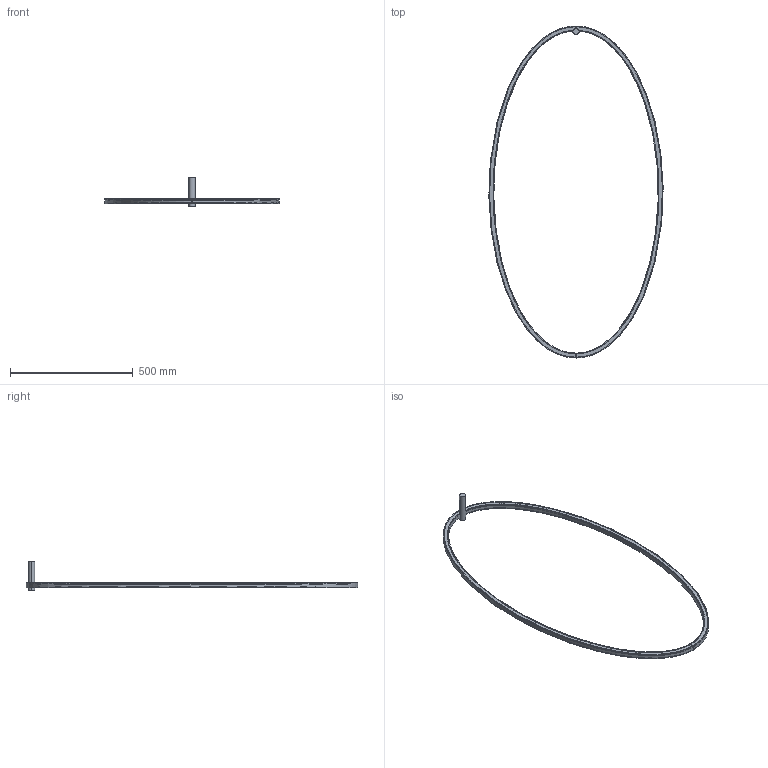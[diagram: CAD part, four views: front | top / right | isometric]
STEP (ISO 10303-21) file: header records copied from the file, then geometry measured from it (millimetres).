
FILE_DESCRIPTION (( 'STEP AP214' ), '1' );
FILE_NAME ('3D_ELLISSE_WALL.STEP', '2018-03-12T16:10:52', ( 'Utente' ), ( '' ), 'SwSTEP 2.0', 'SolidWorks 2016', '' );
FILE_SCHEMA (( 'AUTOMOTIVE_DESIGN' ));
Length unit declared in the file: millimetre
Products named in the file (3): 3D_ELLISSE_WALL; Group2^3D_ELLISSE_WALL; Group1^3D_ELLISSE_WALL
Assembly tree (2 placements, depth 2):
  3D_ELLISSE_WALL
    Group1^3D_ELLISSE_WALL
    Group2^3D_ELLISSE_WALL
Bounding box: 708.79 x 1350 x 120 mm (x, y, z)
Volume: 573182.7 mm3; surface area: 551849.7 mm2
Topology: 3 solids, 3 shells, 369 faces, 1078 edges, 714 vertices
Faces by surface type: cylinder 224, plane 107, bspline 36, cone 2
Entity records: 19955 total; most frequent: CARTESIAN_POINT 9762, ORIENTED_EDGE 2156, DIRECTION 2156, EDGE_CURVE 1078, AXIS2_PLACEMENT_3D 804, VERTEX_POINT 714, VECTOR 548, LINE 548
